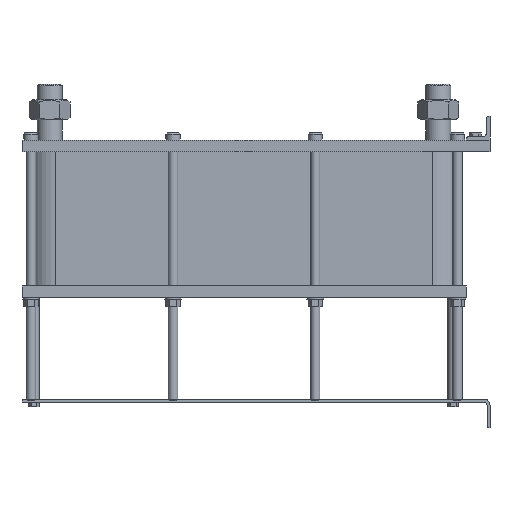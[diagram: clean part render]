
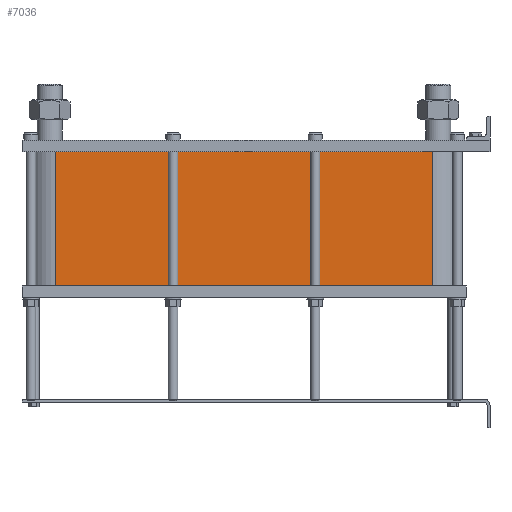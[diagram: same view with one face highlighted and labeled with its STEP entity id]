
A CAD part, left-side view. The second image highlights one B-rep face of the part: STEP entity #7036.
In plain terms, the highlighted planar face has unit normal (-1, 0, 0).
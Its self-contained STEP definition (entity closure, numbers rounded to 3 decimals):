
#999=LINE('',#15640,#1553);
#1031=LINE('',#15723,#1585);
#1032=LINE('',#15726,#1586);
#1033=LINE('',#15727,#1587);
#1553=VECTOR('',#9658,10.);
#1585=VECTOR('',#9736,10.);
#1586=VECTOR('',#9741,10.);
#1587=VECTOR('',#9742,10.);
#2117=FACE_OUTER_BOUND('',#2671,.T.);
#2671=EDGE_LOOP('',(#6246,#6247,#6248,#6249));
#3527=VERTEX_POINT('',#15634);
#3529=VERTEX_POINT('',#15638);
#3556=VERTEX_POINT('',#15720);
#3557=VERTEX_POINT('',#15722);
#4425=EDGE_CURVE('',#3529,#3527,#999,.T.);
#4466=EDGE_CURVE('',#3557,#3556,#1031,.T.);
#4468=EDGE_CURVE('',#3527,#3556,#1032,.T.);
#4469=EDGE_CURVE('',#3557,#3529,#1033,.T.);
#6246=ORIENTED_EDGE('',*,*,#4468,.F.);
#6247=ORIENTED_EDGE('',*,*,#4425,.F.);
#6248=ORIENTED_EDGE('',*,*,#4469,.F.);
#6249=ORIENTED_EDGE('',*,*,#4466,.T.);
#6608=PLANE('',#7812);
#7036=ADVANCED_FACE('',(#2117),#6608,.T.);
#7812=AXIS2_PLACEMENT_3D('',#15725,#9739,#9740);
#9658=DIRECTION('',(0.,0.,-1.));
#9736=DIRECTION('',(0.,0.,-1.));
#9739=DIRECTION('center_axis',(-1.,0.,0.));
#9740=DIRECTION('ref_axis',(0.,1.,0.));
#9741=DIRECTION('',(0.,1.,0.));
#9742=DIRECTION('',(0.,-1.,0.));
#15634=CARTESIAN_POINT('',(-72.,97.5,-226.3));
#15638=CARTESIAN_POINT('',(-72.,97.5,0.));
#15640=CARTESIAN_POINT('',(-72.,97.5,0.));
#15720=CARTESIAN_POINT('',(-72.,733.5,-226.3));
#15722=CARTESIAN_POINT('',(-72.,733.5,0.));
#15723=CARTESIAN_POINT('',(-72.,733.5,0.));
#15725=CARTESIAN_POINT('Origin',(-72.,97.5,0.));
#15726=CARTESIAN_POINT('',(-72.,256.5,-226.3));
#15727=CARTESIAN_POINT('',(-72.,733.5,0.));
